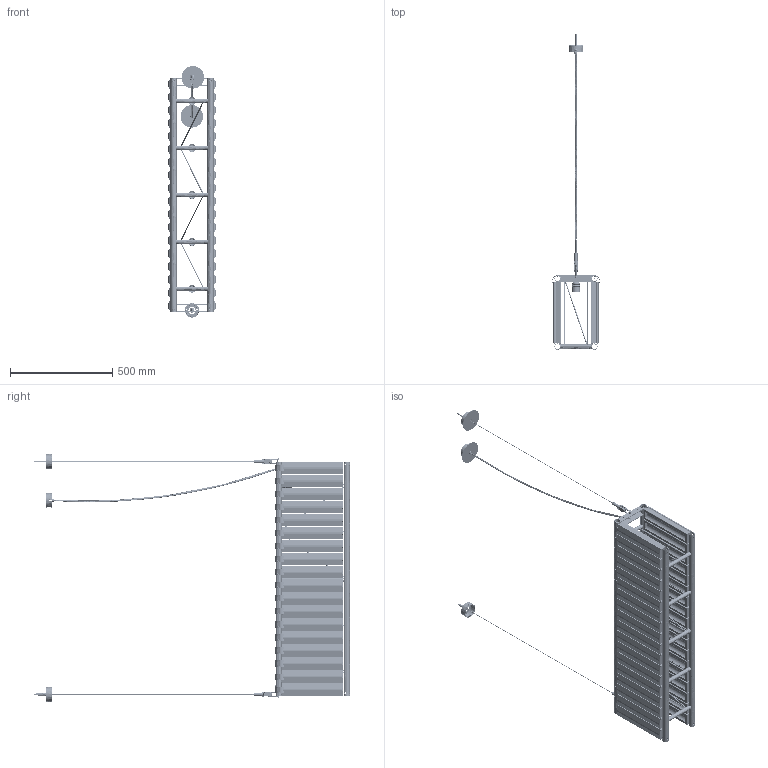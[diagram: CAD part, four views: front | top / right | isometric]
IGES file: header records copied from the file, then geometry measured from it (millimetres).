
Start section: SolidWorks IGES file using analytic representation for surfaces
Global section: file name: C:\Users\berta.gumma\OneDrive - santa &cole\Desktop\estadio lineal 1 modulo .IGS; native system: SolidWorks 2021; preprocessor: SolidWorks 2021; author: berta.gumma; date: 230927.100904; units: millimetre
Bounding box: 232.6 x 1539.3 x 1229.66 mm (x, y, z)
Surface area: 4005592.9 mm2 (no closed solid volume)
Topology: 0 solids, 0 shells, 5869 faces, 77651 edges, 77649 vertices
Faces by surface type: bspline 2938, revolution 2931
